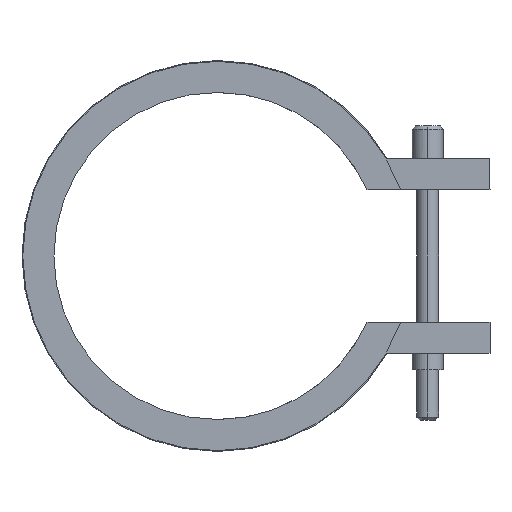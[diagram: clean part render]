
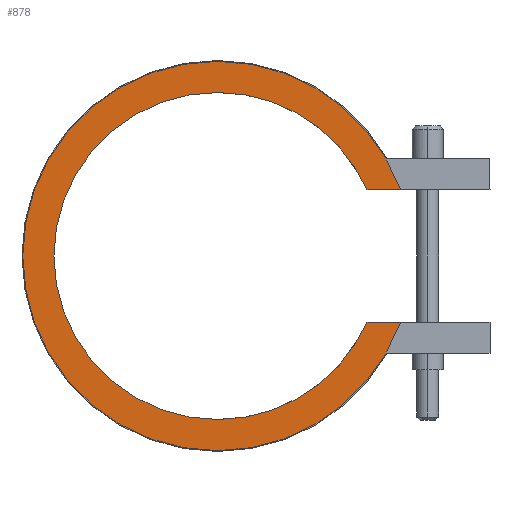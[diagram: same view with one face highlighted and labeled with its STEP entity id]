
A CAD part, left-side view. The second image highlights one B-rep face of the part: STEP entity #878.
In plain terms, the highlighted planar face has unit normal (-1, 0, 0).
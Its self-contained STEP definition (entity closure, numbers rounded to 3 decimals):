
#416=CARTESIAN_POINT('Vertex',(-17.5,-19.203,-8.5)) ;
#419=CARTESIAN_POINT('Line Origine',(-17.5,-21.357,-8.5)) ;
#423=CARTESIAN_POINT('Vertex',(-17.5,-23.511,-8.5)) ;
#469=CARTESIAN_POINT('Vertex',(-17.5,0.,-25.)) ;
#472=CARTESIAN_POINT('Axis2P3D Location',(-17.5,0.,0.)) ;
#493=CARTESIAN_POINT('Vertex',(-17.5,0.,25.)) ;
#496=CARTESIAN_POINT('Axis2P3D Location',(-17.5,0.,0.)) ;
#508=CARTESIAN_POINT('Axis2P3D Location',(-17.5,0.,0.)) ;
#512=CARTESIAN_POINT('Vertex',(-17.5,-23.511,8.5)) ;
#532=CARTESIAN_POINT('Line Origine',(-17.5,-21.357,8.5)) ;
#536=CARTESIAN_POINT('Vertex',(-17.5,-19.203,8.5)) ;
#824=CARTESIAN_POINT('Axis2P3D Location',(-17.5,0.,0.)) ;
#828=CARTESIAN_POINT('Vertex',(-17.5,0.,-21.)) ;
#851=CARTESIAN_POINT('Axis2P3D Location',(-17.5,0.,0.)) ;
#856=CARTESIAN_POINT('Axis2P3D Location',(-17.5,0.,0.)) ;
#860=CARTESIAN_POINT('Vertex',(-17.5,0.,21.)) ;
#863=CARTESIAN_POINT('Axis2P3D Location',(-17.5,0.,0.)) ;
#420=DIRECTION('Vector Direction',(0.,1.,0.)) ;
#473=DIRECTION('Axis2P3D Direction',(1.,0.,-0.)) ;
#497=DIRECTION('Axis2P3D Direction',(1.,0.,-0.)) ;
#509=DIRECTION('Axis2P3D Direction',(1.,0.,-0.)) ;
#533=DIRECTION('Vector Direction',(0.,-1.,0.)) ;
#825=DIRECTION('Axis2P3D Direction',(1.,0.,-0.)) ;
#852=DIRECTION('Axis2P3D Direction',(1.,0.,0.)) ;
#853=DIRECTION('Axis2P3D XDirection',(0.,0.,-1.)) ;
#857=DIRECTION('Axis2P3D Direction',(1.,0.,0.)) ;
#864=DIRECTION('Axis2P3D Direction',(1.,0.,0.)) ;
#474=AXIS2_PLACEMENT_3D('Circle Axis2P3D',#472,#473,$) ;
#498=AXIS2_PLACEMENT_3D('Circle Axis2P3D',#496,#497,$) ;
#510=AXIS2_PLACEMENT_3D('Circle Axis2P3D',#508,#509,$) ;
#826=AXIS2_PLACEMENT_3D('Circle Axis2P3D',#824,#825,$) ;
#854=AXIS2_PLACEMENT_3D('Plane Axis2P3D',#851,#852,#853) ;
#858=AXIS2_PLACEMENT_3D('Circle Axis2P3D',#856,#857,$) ;
#865=AXIS2_PLACEMENT_3D('Circle Axis2P3D',#863,#864,$) ;
#869=ORIENTED_EDGE('',*,*,#425,.T.) ;
#870=ORIENTED_EDGE('',*,*,#830,.T.) ;
#871=ORIENTED_EDGE('',*,*,#862,.T.) ;
#872=ORIENTED_EDGE('',*,*,#867,.T.) ;
#873=ORIENTED_EDGE('',*,*,#538,.T.) ;
#874=ORIENTED_EDGE('',*,*,#514,.F.) ;
#875=ORIENTED_EDGE('',*,*,#500,.F.) ;
#876=ORIENTED_EDGE('',*,*,#476,.F.) ;
#421=VECTOR('Line Direction',#420,1.) ;
#534=VECTOR('Line Direction',#533,1.) ;
#878=ADVANCED_FACE('14042035',(#877),#855,.F.) ;
#475=CIRCLE('generated circle',#474,25.) ;
#499=CIRCLE('generated circle',#498,25.) ;
#511=CIRCLE('generated circle',#510,25.) ;
#827=CIRCLE('generated circle',#826,21.) ;
#859=CIRCLE('generated circle',#858,21.) ;
#866=CIRCLE('generated circle',#865,21.) ;
#425=EDGE_CURVE('',#424,#417,#422,.T.) ;
#476=EDGE_CURVE('',#424,#470,#475,.T.) ;
#500=EDGE_CURVE('',#470,#494,#499,.T.) ;
#514=EDGE_CURVE('',#494,#513,#511,.T.) ;
#538=EDGE_CURVE('',#537,#513,#535,.T.) ;
#830=EDGE_CURVE('',#417,#829,#827,.T.) ;
#862=EDGE_CURVE('',#829,#861,#859,.T.) ;
#867=EDGE_CURVE('',#861,#537,#866,.T.) ;
#868=EDGE_LOOP('',(#869,#870,#871,#872,#873,#874,#875,#876)) ;
#877=FACE_OUTER_BOUND('',#868,.T.) ;
#422=LINE('Line',#419,#421) ;
#535=LINE('Line',#532,#534) ;
#855=PLANE('Plane',#854) ;
#417=VERTEX_POINT('',#416) ;
#424=VERTEX_POINT('',#423) ;
#470=VERTEX_POINT('',#469) ;
#494=VERTEX_POINT('',#493) ;
#513=VERTEX_POINT('',#512) ;
#537=VERTEX_POINT('',#536) ;
#829=VERTEX_POINT('',#828) ;
#861=VERTEX_POINT('',#860) ;
